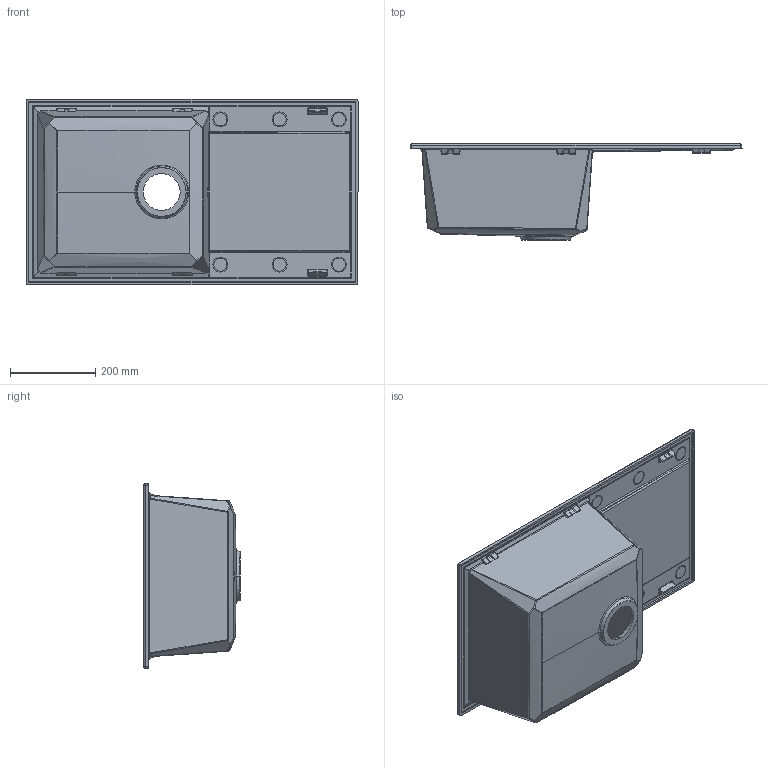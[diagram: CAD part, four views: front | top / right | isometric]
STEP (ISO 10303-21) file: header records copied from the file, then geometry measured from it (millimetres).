
FILE_DESCRIPTION (( 'STEP AP203' ), '1' );
FILE_NAME ('Easy 290.STEP', '2018-10-10T14:48:24', ( '' ), ( '' ), 'SwSTEP 2.0', 'SolidWorks 2013', '' );
FILE_SCHEMA (( 'CONFIG_CONTROL_DESIGN' ));
Length unit declared in the file: millimetre
Products named in the file (1): Easy 290
Bounding box: 780 x 225.74 x 435 mm (x, y, z)
Volume: 4869393.7 mm3; surface area: 1220438.8 mm2
Topology: 1 solids, 1 shells, 804 faces, 1871 edges, 1042 vertices
Faces by surface type: bspline 440, cylinder 262, plane 92, cone 10
Entity records: 36748 total; most frequent: CARTESIAN_POINT 21610, ORIENTED_EDGE 3654, DIRECTION 2449, EDGE_CURVE 1827, VERTEX_POINT 1042, AXIS2_PLACEMENT_3D 971, EDGE_LOOP 825, ADVANCED_FACE 804
